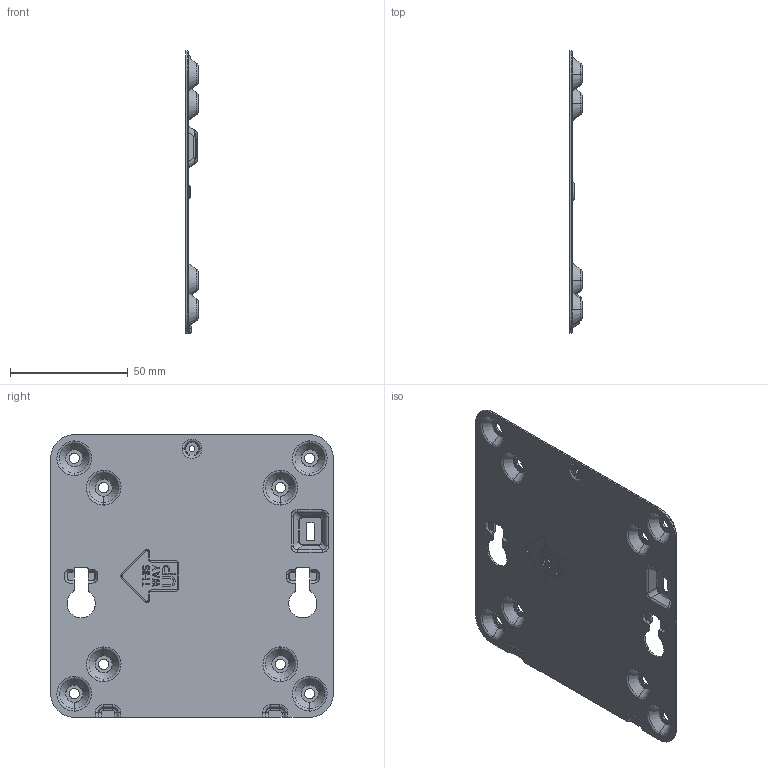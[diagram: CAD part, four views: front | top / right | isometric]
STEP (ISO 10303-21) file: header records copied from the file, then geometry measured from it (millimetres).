
FILE_DESCRIPTION((''),'2;1');
FILE_NAME('PH_STAND_COVER_BKT_1','2021-01-07T15:15:03',('ynishi'),('INTEL'),'CREO PARAMETRIC BY PTC INC, 2020074','CREO PARAMETRIC BY PTC INC, 2020074','');
FILE_SCHEMA(('CONFIG_CONTROL_DESIGN'));
Length unit declared in the file: millimetre
Products named in the file (1): PH_STAND_COVER_BKT_1
Bounding box: 5.2 x 120 x 120 mm (x, y, z)
Volume: 14461.5 mm3; surface area: 29762.3 mm2
Topology: 1 solids, 1 shells, 657 faces, 1792 edges, 1170 vertices
Faces by surface type: plane 313, cylinder 106, cone 100, torus 86, bspline 50, extrusion 2
Entity records: 22577 total; most frequent: CARTESIAN_POINT 5520, DIRECTION 3652, ORIENTED_EDGE 3584, EDGE_CURVE 1792, AXIS2_PLACEMENT_3D 1331, VERTEX_POINT 1170, VECTOR 990, LINE 988
